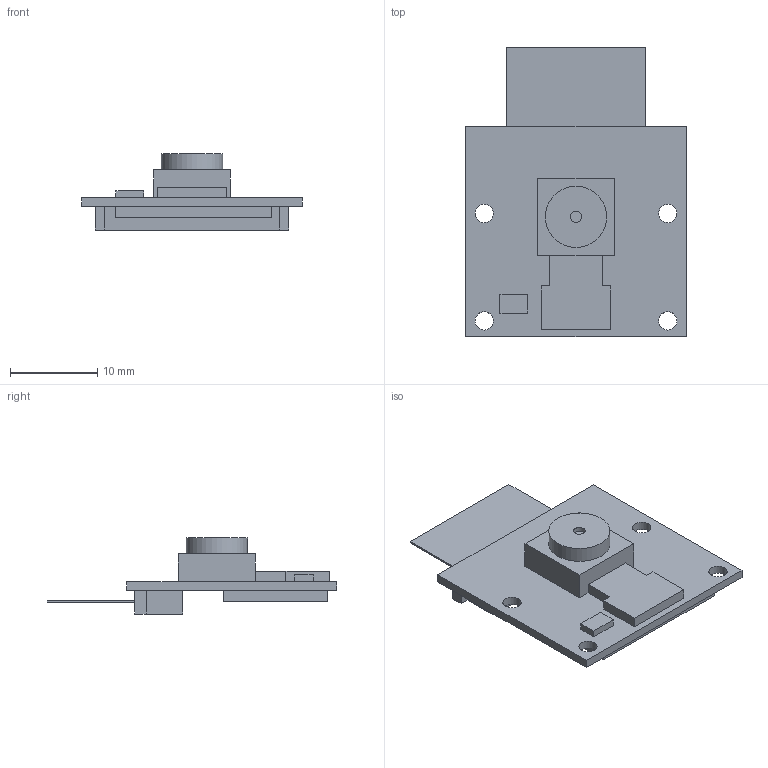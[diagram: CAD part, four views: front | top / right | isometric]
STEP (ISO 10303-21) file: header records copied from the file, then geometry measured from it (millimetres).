
FILE_DESCRIPTION(/* description */ (''),/* implementation_level */ '2;1');
FILE_NAME(/* name */ 'RPi cam v1.step',/* time_stamp */ '2024-07-14T13:26:31-05:00',/* author */ (''),/* organization */ (''),/* preprocessor_version */ 'ST-DEVELOPER v20',/* originating_system */ 'Autodesk Translation Framework v13.14.0.145',/* authorisation */ '');
FILE_SCHEMA (('AUTOMOTIVE_DESIGN { 1 0 10303 214 3 1 1 }'));
Length unit declared in the file: millimetre
Products named in the file (1): RPi cam
Bounding box: 25.2 x 33.1 x 8.7 mm (x, y, z)
Volume: 1602.7 mm3; surface area: 2045.4 mm2
Topology: 1 solids, 1 shells, 51 faces, 126 edges, 84 vertices
Faces by surface type: plane 45, cylinder 6
Full cylindrical faces by diameter (mm): 1.3 x1, 2.1 x4, 7 x1
Entity records: 1634 total; most frequent: CARTESIAN_POINT 262, ORIENTED_EDGE 252, DIRECTION 242, EDGE_CURVE 126, LINE 114, VECTOR 114, VERTEX_POINT 84, EDGE_LOOP 66
